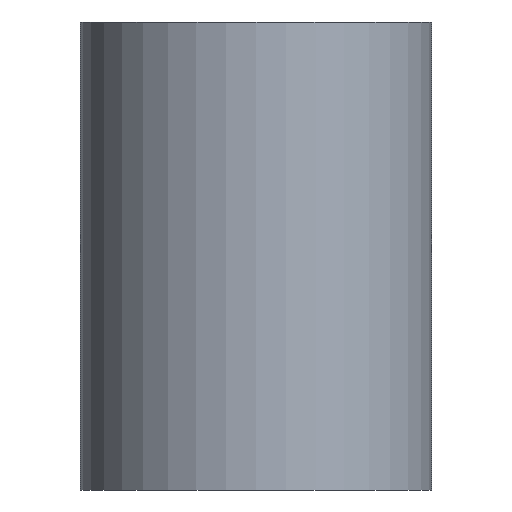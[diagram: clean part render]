
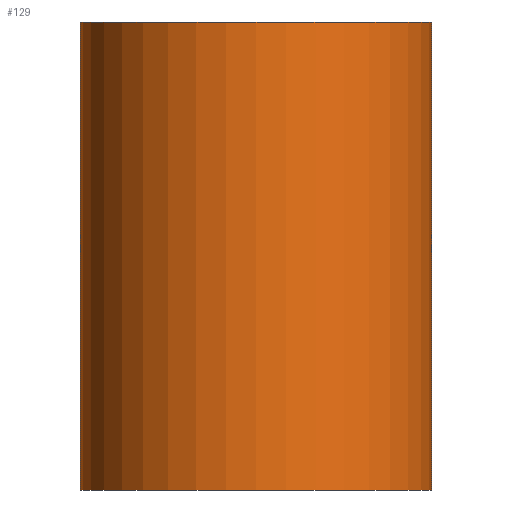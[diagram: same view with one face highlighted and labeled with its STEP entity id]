
A CAD part, front view. The second image highlights one B-rep face of the part: STEP entity #129.
In plain terms, the highlighted cylindrical face has radius 15 mm (diameter 30 mm), a partial arc.
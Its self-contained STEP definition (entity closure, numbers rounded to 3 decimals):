
#102=CYLINDRICAL_SURFACE('',#250,15.);
#108=FACE_OUTER_BOUND('',#150,.T.);
#113=LINE('',#337,#119);
#114=LINE('',#338,#120);
#119=VECTOR('',#295,1.);
#120=VECTOR('',#296,1.);
#129=ADVANCED_FACE('',(#108),#102,.T.);
#150=EDGE_LOOP('',(#183,#184,#185,#186));
#183=ORIENTED_EDGE('',*,*,#215,.F.);
#184=ORIENTED_EDGE('',*,*,#214,.T.);
#185=ORIENTED_EDGE('',*,*,#216,.T.);
#186=ORIENTED_EDGE('',*,*,#199,.F.);
#187=VERTEX_POINT('',#303);
#188=VERTEX_POINT('',#304);
#197=VERTEX_POINT('',#333);
#198=VERTEX_POINT('',#334);
#199=EDGE_CURVE('',#187,#188,#217,.T.);
#214=EDGE_CURVE('',#198,#197,#228,.T.);
#215=EDGE_CURVE('',#198,#187,#113,.T.);
#216=EDGE_CURVE('',#197,#188,#114,.T.);
#217=CIRCLE('',#230,15.);
#228=CIRCLE('',#247,15.);
#230=AXIS2_PLACEMENT_3D('',#302,#253,#254);
#247=AXIS2_PLACEMENT_3D('',#335,#291,#292);
#250=AXIS2_PLACEMENT_3D('',#340,#299,#300);
#253=DIRECTION('',(0.,0.,1.));
#254=DIRECTION('',(0.,1.,0.));
#291=DIRECTION('',(0.,0.,1.));
#292=DIRECTION('',(0.,1.,0.));
#295=DIRECTION('',(0.,0.,1.));
#296=DIRECTION('',(0.,0.,1.));
#299=DIRECTION('',(0.,0.,1.));
#300=DIRECTION('',(0.,-1.,0.));
#302=CARTESIAN_POINT('',(0.,0.,40.));
#303=CARTESIAN_POINT('',(-15.,0.,40.));
#304=CARTESIAN_POINT('',(15.,0.,40.));
#333=CARTESIAN_POINT('',(15.,0.,0.));
#334=CARTESIAN_POINT('',(-15.,0.,0.));
#335=CARTESIAN_POINT('',(0.,0.,0.));
#337=CARTESIAN_POINT('',(-15.,0.,0.));
#338=CARTESIAN_POINT('',(15.,0.,0.));
#340=CARTESIAN_POINT('',(0.,0.,0.));
